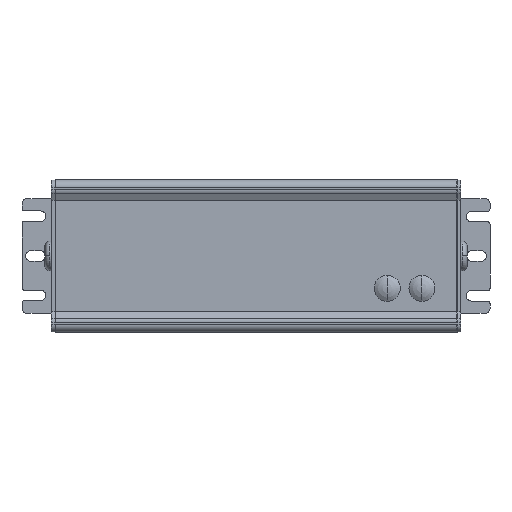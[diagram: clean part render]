
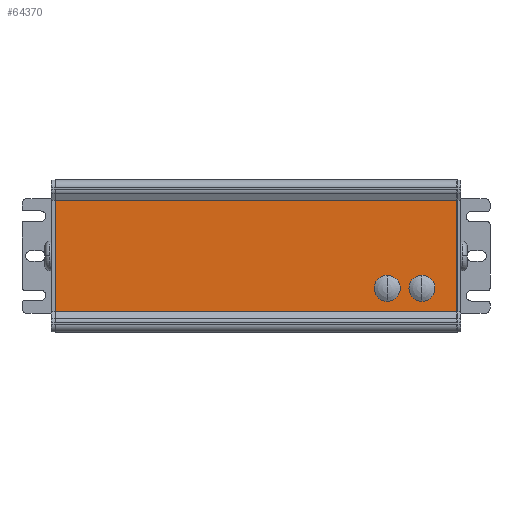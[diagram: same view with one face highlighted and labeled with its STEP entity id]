
A CAD part, front view. The second image highlights one B-rep face of the part: STEP entity #64370.
In plain terms, the highlighted planar face has unit normal (0, -1, 0).
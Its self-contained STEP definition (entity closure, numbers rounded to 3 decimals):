
#62890=CARTESIAN_POINT('',(-100.5,61.469,
-79.247));
#62900=VERTEX_POINT('',#62890);
#62930=CARTESIAN_POINT('',(-100.5,61.469,0.));
#62940=DIRECTION('',(0.,0.,-1.));
#62950=VECTOR('',#62940,1.);
#62960=LINE('',#62930,#62950);
#62970=CARTESIAN_POINT('',(-100.5,61.469,
-124.427));
#62980=VERTEX_POINT('',#62970);
#62990=EDGE_CURVE('',#62900,#62980,#62960,.T.);
#63770=CARTESIAN_POINT('',(91.2,61.469,
-75.317));
#63780=DIRECTION('',(0.,-1.,0.));
#63790=DIRECTION('',(0.,0.,1.));
#63800=AXIS2_PLACEMENT_3D('',#63770,#63780,#63790);
#63810=PLANE('',#63800);
#63820=CARTESIAN_POINT('',(47.5,61.469,
-114.874));
#63830=DIRECTION('',(0.,-1.,0.));
#63840=DIRECTION('',(1.,0.,0.));
#63850=AXIS2_PLACEMENT_3D('',#63820,#63830,#63840);
#63860=CIRCLE('',#63850,4.45);
#63870=CARTESIAN_POINT('',(51.95,61.469,
-114.874));
#63880=VERTEX_POINT('',#63870);
#63890=CARTESIAN_POINT('',(43.05,61.469,
-114.874));
#63900=VERTEX_POINT('',#63890);
#63910=EDGE_CURVE('',#63880,#63900,#63860,.T.);
#63920=ORIENTED_EDGE('',*,*,#63910,.F.);
#63930=EDGE_CURVE('',#63900,#63880,#63860,.T.);
#63940=ORIENTED_EDGE('',*,*,#63930,.F.);
#63950=EDGE_LOOP('',(#63940,#63920));
#63960=FACE_BOUND('',#63950,.T.);
#63970=CARTESIAN_POINT('',(33.5,61.469,
-114.874));
#63980=DIRECTION('',(0.,-1.,0.));
#63990=DIRECTION('',(1.,0.,0.));
#64000=AXIS2_PLACEMENT_3D('',#63970,#63980,#63990);
#64010=CIRCLE('',#64000,4.45);
#64020=CARTESIAN_POINT('',(37.95,61.469,
-114.874));
#64030=VERTEX_POINT('',#64020);
#64040=CARTESIAN_POINT('',(29.05,61.469,
-114.874));
#64050=VERTEX_POINT('',#64040);
#64060=EDGE_CURVE('',#64030,#64050,#64010,.T.);
#64070=ORIENTED_EDGE('',*,*,#64060,.F.);
#64080=EDGE_CURVE('',#64050,#64030,#64010,.T.);
#64090=ORIENTED_EDGE('',*,*,#64080,.F.);
#64100=EDGE_LOOP('',(#64090,#64070));
#64110=FACE_BOUND('',#64100,.T.);
#64120=CARTESIAN_POINT('',(0.,61.469,-79.247));
#64130=DIRECTION('',(-1.,0.,0.));
#64140=VECTOR('',#64130,1.);
#64150=LINE('',#64120,#64140);
#64160=CARTESIAN_POINT('',(62.,61.469,
-79.247));
#64170=VERTEX_POINT('',#64160);
#64180=EDGE_CURVE('',#64170,#62900,#64150,.T.);
#64190=ORIENTED_EDGE('',*,*,#64180,.T.);
#64200=CARTESIAN_POINT('',(62.,61.469,0.));
#64210=DIRECTION('',(0.,0.,1.));
#64220=VECTOR('',#64210,1.);
#64230=LINE('',#64200,#64220);
#64240=CARTESIAN_POINT('',(62.,61.469,
-124.427));
#64250=VERTEX_POINT('',#64240);
#64260=EDGE_CURVE('',#64250,#64170,#64230,.T.);
#64270=ORIENTED_EDGE('',*,*,#64260,.T.);
#64280=CARTESIAN_POINT('',(0.,61.469,-124.427));
#64290=DIRECTION('',(-1.,0.,0.));
#64300=VECTOR('',#64290,1.);
#64310=LINE('',#64280,#64300);
#64320=EDGE_CURVE('',#64250,#62980,#64310,.T.);
#64330=ORIENTED_EDGE('',*,*,#64320,.F.);
#64340=ORIENTED_EDGE('',*,*,#62990,.T.);
#64350=EDGE_LOOP('',(#64340,#64330,#64270,#64190));
#64360=FACE_OUTER_BOUND('',#64350,.T.);
#64370=ADVANCED_FACE('',(#63960,#64110,#64360),#63810,.T.);
